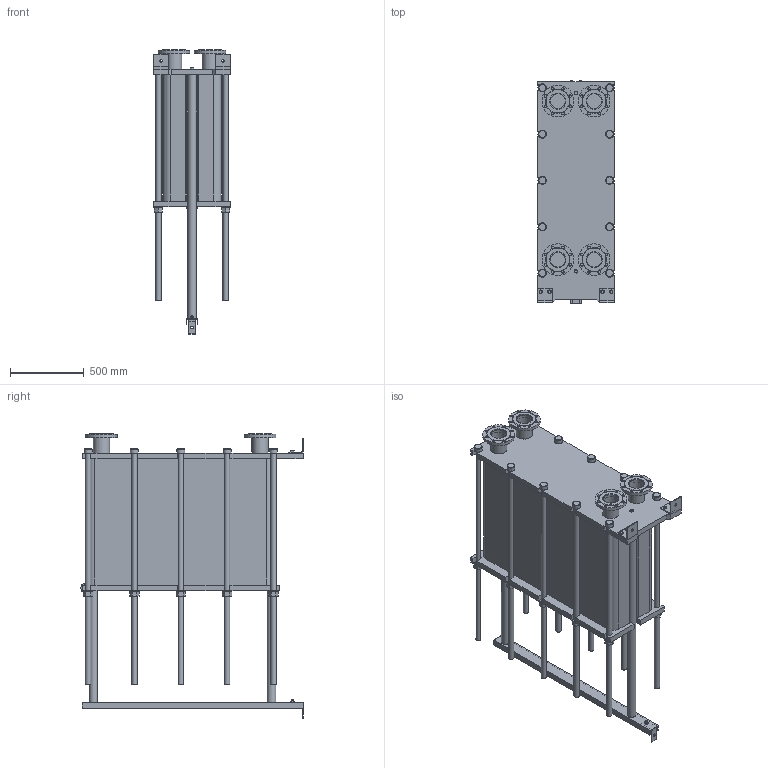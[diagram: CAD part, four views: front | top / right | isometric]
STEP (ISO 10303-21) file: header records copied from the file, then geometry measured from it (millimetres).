
FILE_DESCRIPTION(/* description */ (''),/* implementation_level */ '2;1');
FILE_NAME(/* name */ 'C:\Users\zhuro\Desktop\ENCO\TO\ЭН-04\ЭН-0,5-04-248-1.stp',/* time_stamp */ '2022-06-06T11:06:40+03:00',/* author */ ('zhuro'),/* organization */ (''),/* preprocessor_version */ 'ST-DEVELOPER v18.1',/* originating_system */ 'Autodesk Inventor 2022',/* authorisation */ '');
FILE_SCHEMA (('AUTOMOTIVE_DESIGN { 1 0 10303 214 3 1 1 }'));
Length unit declared in the file: millimetre
Products named in the file (1): ЭН-0,5-04-248-1
Bounding box: 520 x 1510 x 1929 mm (x, y, z)
Volume: 506764216.5 mm3; surface area: 11609795.9 mm2
Topology: 45 solids, 45 shells, 668 faces, 1611 edges, 1048 vertices
Faces by surface type: plane 457, cylinder 166, cone 39, torus 6
Full cylindrical faces by diameter (mm): 8 x4, 10 x2, 16 x8, 18 x35, 36 x25, 40 x2, 42 x1, 45 x4, 54 x10, 57 x2, 60 x10, 68 x2, 100 x4, 110 x8, 215 x4
Entity records: 23607 total; most frequent: CARTESIAN_POINT 7348, DIRECTION 3371, ORIENTED_EDGE 3142, EDGE_CURVE 1571, AXIS2_PLACEMENT_3D 1199, VERTEX_POINT 1044, LINE 973, VECTOR 973
